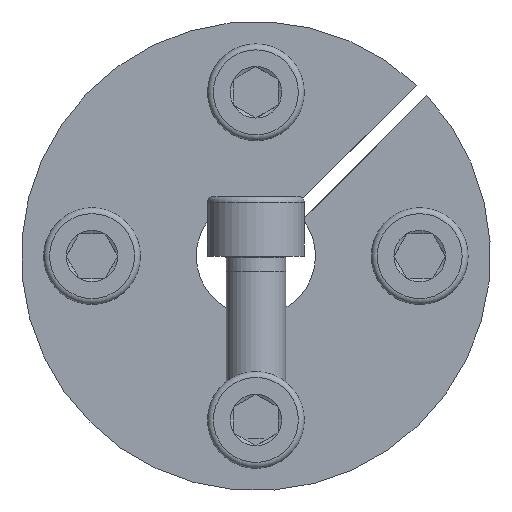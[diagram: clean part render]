
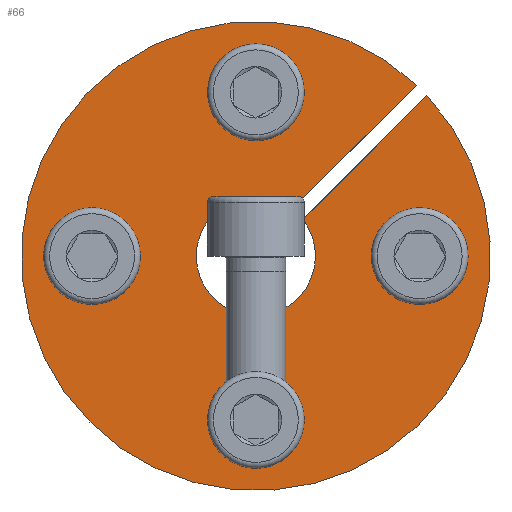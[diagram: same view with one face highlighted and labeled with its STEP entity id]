
A CAD part, front view. The second image highlights one B-rep face of the part: STEP entity #66.
In plain terms, the highlighted planar face has unit normal (0, -1, 0).
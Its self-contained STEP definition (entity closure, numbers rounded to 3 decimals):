
#66 = ADVANCED_FACE( '', ( #139, #140, #141, #142, #143 ), #144, .F. );
#139 = FACE_OUTER_BOUND( '', #245, .T. );
#140 = FACE_BOUND( '', #246, .T. );
#141 = FACE_BOUND( '', #247, .T. );
#142 = FACE_BOUND( '', #248, .T. );
#143 = FACE_BOUND( '', #249, .T. );
#144 = PLANE( '', #250 );
#245 = EDGE_LOOP( '', ( #380, #381, #382, #383 ) );
#246 = EDGE_LOOP( '', ( #384 ) );
#247 = EDGE_LOOP( '', ( #385 ) );
#248 = EDGE_LOOP( '', ( #386 ) );
#249 = EDGE_LOOP( '', ( #387 ) );
#250 = AXIS2_PLACEMENT_3D( '', #388, #389, #390 );
#380 = ORIENTED_EDGE( '', *, *, #606, .T. );
#381 = ORIENTED_EDGE( '', *, *, #607, .T. );
#382 = ORIENTED_EDGE( '', *, *, #608, .T. );
#383 = ORIENTED_EDGE( '', *, *, #609, .F. );
#384 = ORIENTED_EDGE( '', *, *, #610, .F. );
#385 = ORIENTED_EDGE( '', *, *, #611, .F. );
#386 = ORIENTED_EDGE( '', *, *, #612, .F. );
#387 = ORIENTED_EDGE( '', *, *, #613, .F. );
#388 = CARTESIAN_POINT( '', ( 0., 0., 31.5 ) );
#389 = DIRECTION( '', ( 0., 1., 0. ) );
#390 = DIRECTION( '', ( 1., 0., 0. ) );
#606 = EDGE_CURVE( '', #743, #744, #745, .T. );
#607 = EDGE_CURVE( '', #744, #746, #747, .T. );
#608 = EDGE_CURVE( '', #746, #748, #749, .T. );
#609 = EDGE_CURVE( '', #743, #748, #750, .T. );
#610 = EDGE_CURVE( '', #751, #751, #752, .T. );
#611 = EDGE_CURVE( '', #753, #753, #754, .T. );
#612 = EDGE_CURVE( '', #755, #755, #756, .T. );
#613 = EDGE_CURVE( '', #757, #757, #758, .T. );
#743 = VERTEX_POINT( '', #994 );
#744 = VERTEX_POINT( '', #995 );
#745 = LINE( '', #996, #997 );
#746 = VERTEX_POINT( '', #998 );
#747 = CIRCLE( '', #999, 31.5 );
#748 = VERTEX_POINT( '', #1000 );
#749 = LINE( '', #1001, #1002 );
#750 = CIRCLE( '', #1003, 8. );
#751 = VERTEX_POINT( '', #1004 );
#752 = CIRCLE( '', #1005, 4.5 );
#753 = VERTEX_POINT( '', #1006 );
#754 = CIRCLE( '', #1007, 4.5 );
#755 = VERTEX_POINT( '', #1008 );
#756 = CIRCLE( '', #1009, 4.5 );
#757 = VERTEX_POINT( '', #1010 );
#758 = CIRCLE( '', #1011, 4.5 );
#994 = CARTESIAN_POINT( '', ( 4.905, 0., 6.32 ) );
#995 = CARTESIAN_POINT( '', ( 21.556, 0., 22.97 ) );
#996 = CARTESIAN_POINT( '', ( 4.905, 0., 6.32 ) );
#997 = VECTOR( '', #1144, 1000. );
#998 = CARTESIAN_POINT( '', ( 22.97, 0., 21.556 ) );
#999 = AXIS2_PLACEMENT_3D( '', #1145, #1146, #1147 );
#1000 = CARTESIAN_POINT( '', ( 6.32, 0., 4.905 ) );
#1001 = CARTESIAN_POINT( '', ( 22.981, 0., 21.567 ) );
#1002 = VECTOR( '', #1148, 1000. );
#1003 = AXIS2_PLACEMENT_3D( '', #1149, #1150, #1151 );
#1004 = CARTESIAN_POINT( '', ( 4.5, 0., 22. ) );
#1005 = AXIS2_PLACEMENT_3D( '', #1152, #1153, #1154 );
#1006 = CARTESIAN_POINT( '', ( 22., 0., -4.5 ) );
#1007 = AXIS2_PLACEMENT_3D( '', #1155, #1156, #1157 );
#1008 = CARTESIAN_POINT( '', ( -4.5, 0., -22. ) );
#1009 = AXIS2_PLACEMENT_3D( '', #1158, #1159, #1160 );
#1010 = CARTESIAN_POINT( '', ( -22., 0., 4.5 ) );
#1011 = AXIS2_PLACEMENT_3D( '', #1161, #1162, #1163 );
#1144 = DIRECTION( '', ( 0.707, 0., 0.707 ) );
#1145 = CARTESIAN_POINT( '', ( 0., 0., 0. ) );
#1146 = DIRECTION( '', ( 0., -1., 0. ) );
#1147 = DIRECTION( '', ( 0., 0., -1. ) );
#1148 = DIRECTION( '', ( -0.707, 0., -0.707 ) );
#1149 = CARTESIAN_POINT( '', ( 0., 0., 0. ) );
#1150 = DIRECTION( '', ( 0., -1., 0. ) );
#1151 = DIRECTION( '', ( 0., 0., -1. ) );
#1152 = CARTESIAN_POINT( '', ( 0., 0., 22. ) );
#1153 = DIRECTION( '', ( 0., -1., 0. ) );
#1154 = DIRECTION( '', ( 1., 0., 0. ) );
#1155 = CARTESIAN_POINT( '', ( 22., 0., 0. ) );
#1156 = DIRECTION( '', ( 0., -1., 0. ) );
#1157 = DIRECTION( '', ( 0., 0., -1. ) );
#1158 = CARTESIAN_POINT( '', ( 0., 0., -22. ) );
#1159 = DIRECTION( '', ( 0., -1., 0. ) );
#1160 = DIRECTION( '', ( -1., 0., 0. ) );
#1161 = CARTESIAN_POINT( '', ( -22., 0., 0. ) );
#1162 = DIRECTION( '', ( 0., -1., 0. ) );
#1163 = DIRECTION( '', ( 0., 0., 1. ) );
